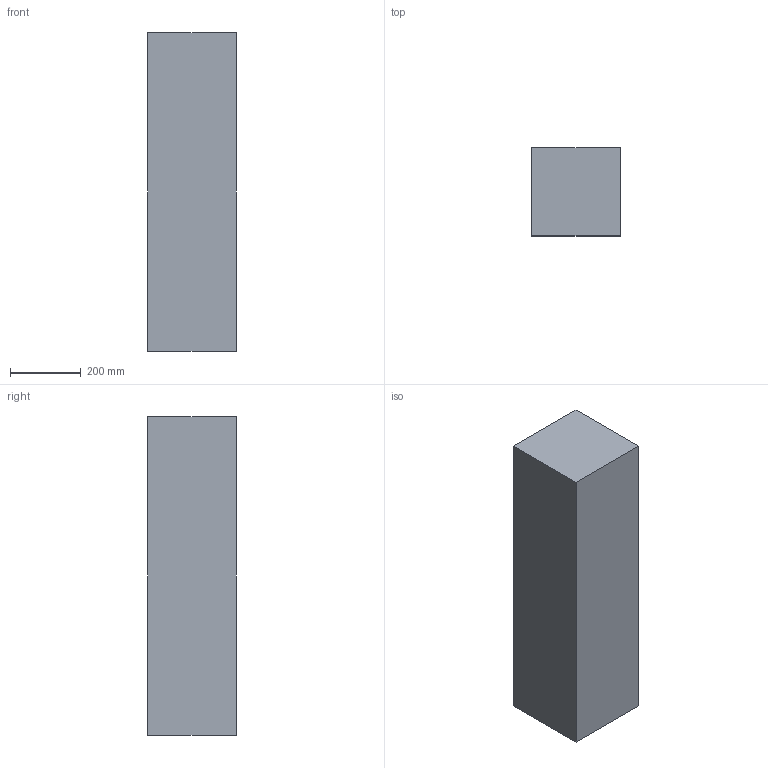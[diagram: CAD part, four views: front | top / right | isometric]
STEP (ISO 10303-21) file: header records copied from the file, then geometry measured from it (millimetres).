
FILE_DESCRIPTION (( 'STEP AP203' ), '1' );
FILE_NAME ('Extrabox Step.STEP', '2019-01-15T13:45:39', ( '' ), ( '' ), 'SwSTEP 2.0', 'SolidWorks 2019', '' );
FILE_SCHEMA (( 'CONFIG_CONTROL_DESIGN' ));
Length unit declared in the file: millimetre
Products named in the file (1): Extrabox Step
Bounding box: 250 x 250 x 900 mm (x, y, z)
Volume: 56250000 mm3; surface area: 1025000 mm2
Topology: 1 solids, 1 shells, 6 faces, 12 edges, 8 vertices
Faces by surface type: plane 6
Entity records: 233 total; most frequent: CARTESIAN_POINT 27, DIRECTION 26, ORIENTED_EDGE 24, VECTOR 12, LINE 12, EDGE_CURVE 12, PERSON_AND_ORGANIZATION 8, VERTEX_POINT 8
